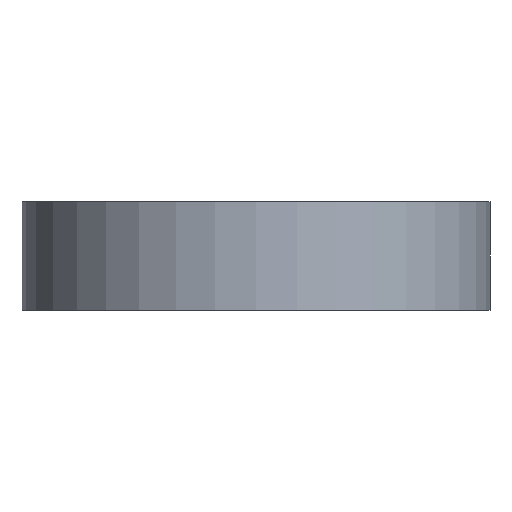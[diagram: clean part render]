
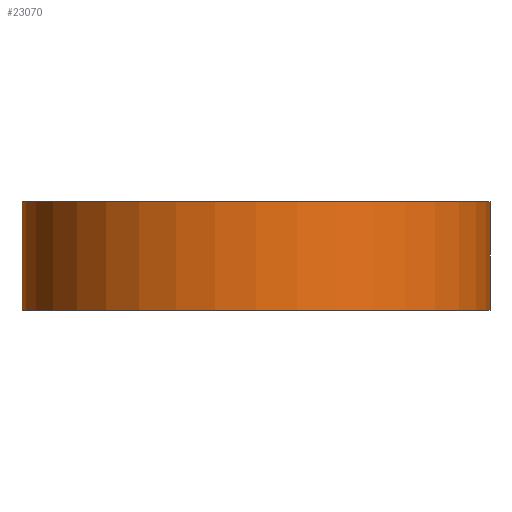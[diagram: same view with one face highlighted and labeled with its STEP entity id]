
A CAD part, front view. The second image highlights one B-rep face of the part: STEP entity #23070.
In plain terms, the highlighted cylindrical face has radius 151.5 mm (diameter 303 mm), a partial arc.
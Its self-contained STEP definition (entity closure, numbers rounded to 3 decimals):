
#47 = LINE ( 'NONE', #13299, #5750 ) ;
#132 = AXIS2_PLACEMENT_3D ( 'NONE', #23625, #6659, #14218 ) ;
#248 = CARTESIAN_POINT ( 'NONE',  ( 0., 0., 35. ) ) ;
#354 = VERTEX_POINT ( 'NONE', #3502 ) ;
#394 = VERTEX_POINT ( 'NONE', #5731 ) ;
#1373 = DIRECTION ( 'NONE',  ( 0., 0., -1. ) ) ;
#2180 = DIRECTION ( 'NONE',  ( 0., 0., -1. ) ) ;
#3229 = FACE_OUTER_BOUND ( 'NONE', #22626, .T. ) ;
#3502 = CARTESIAN_POINT ( 'NONE',  ( -151.5, 0., 35. ) ) ;
#3728 = EDGE_CURVE ( 'NONE', #354, #8561, #18748, .T. ) ;
#5503 = EDGE_CURVE ( 'NONE', #394, #15542, #10806, .T. ) ;
#5514 = EDGE_CURVE ( 'NONE', #354, #394, #11586, .T. ) ;
#5731 = CARTESIAN_POINT ( 'NONE',  ( -151.5, 0., -35. ) ) ;
#5750 = VECTOR ( 'NONE', #20850, 1000. ) ;
#6117 = CARTESIAN_POINT ( 'NONE',  ( 151.5, 0., 35. ) ) ;
#6480 = VECTOR ( 'NONE', #2180, 1000. ) ;
#6659 = DIRECTION ( 'NONE',  ( 0., 0., 1. ) ) ;
#7807 = DIRECTION ( 'NONE',  ( 0., 0., 1. ) ) ;
#8082 = AXIS2_PLACEMENT_3D ( 'NONE', #248, #7807, #15373 ) ;
#8561 = VERTEX_POINT ( 'NONE', #6117 ) ;
#8592 = ORIENTED_EDGE ( 'NONE', *, *, #5514, .T. ) ;
#8922 = DIRECTION ( 'NONE',  ( -1., 0., 0. ) ) ;
#10779 = CYLINDRICAL_SURFACE ( 'NONE', #20139, 151.5 ) ;
#10806 = CIRCLE ( 'NONE', #132, 151.5 ) ;
#11586 = LINE ( 'NONE', #19143, #6480 ) ;
#13299 = CARTESIAN_POINT ( 'NONE',  ( 151.5, 0., 35. ) ) ;
#14218 = DIRECTION ( 'NONE',  ( 1., 0., 0. ) ) ;
#15373 = DIRECTION ( 'NONE',  ( 1., 0., 0. ) ) ;
#15542 = VERTEX_POINT ( 'NONE', #19299 ) ;
#16198 = ORIENTED_EDGE ( 'NONE', *, *, #16400, .F. ) ;
#16400 = EDGE_CURVE ( 'NONE', #8561, #15542, #47, .T. ) ;
#16609 = ORIENTED_EDGE ( 'NONE', *, *, #5503, .T. ) ;
#18337 = CARTESIAN_POINT ( 'NONE',  ( 0., 0., 35. ) ) ;
#18748 = CIRCLE ( 'NONE', #8082, 151.5 ) ;
#19107 = ORIENTED_EDGE ( 'NONE', *, *, #3728, .F. ) ;
#19143 = CARTESIAN_POINT ( 'NONE',  ( -151.5, 0., 35. ) ) ;
#19299 = CARTESIAN_POINT ( 'NONE',  ( 151.5, 0., -35. ) ) ;
#20139 = AXIS2_PLACEMENT_3D ( 'NONE', #18337, #1373, #8922 ) ;
#20850 = DIRECTION ( 'NONE',  ( 0., 0., -1. ) ) ;
#22626 = EDGE_LOOP ( 'NONE', ( #16198, #19107, #8592, #16609 ) ) ;
#23070 = ADVANCED_FACE ( 'NONE', ( #3229 ), #10779, .T. ) ;
#23625 = CARTESIAN_POINT ( 'NONE',  ( 0., 0., -35. ) ) ;
